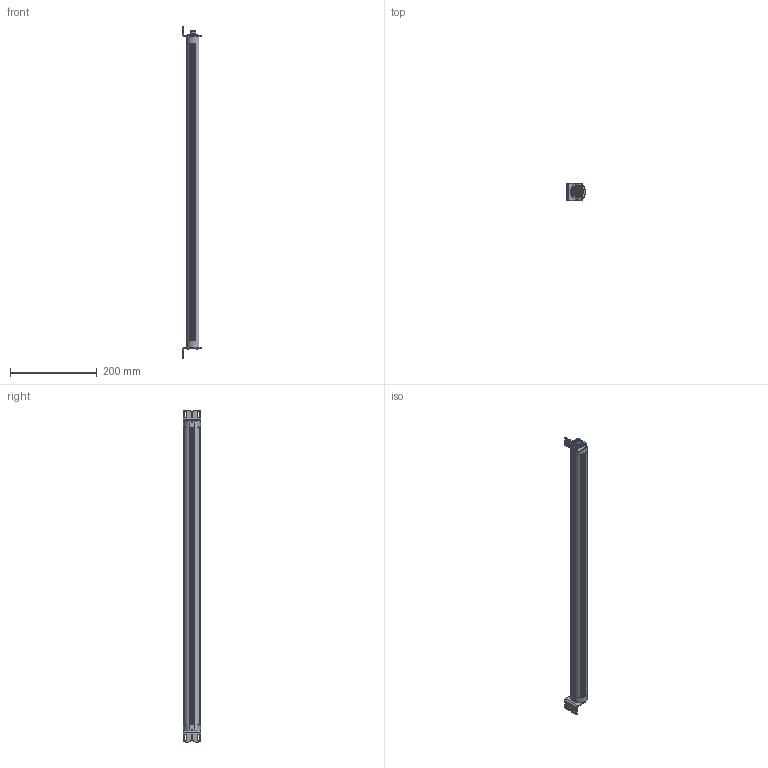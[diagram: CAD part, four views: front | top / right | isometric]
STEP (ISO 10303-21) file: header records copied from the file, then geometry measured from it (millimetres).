
FILE_DESCRIPTION(/* description */ (''),/* implementation_level */ '2;1');
FILE_NAME(/* name */ 'G:\Daten\Leuchten\07000 - LED LR40\03 - CAD\LR_40 LRO_40 715\led-aufbauleuchte-lr40-715.stp',/* time_stamp */ '2023-05-05T12:05:28+02:00',/* author */ ('gzahn'),/* organization */ (''),/* preprocessor_version */ 'ST-DEVELOPER v19',/* originating_system */ 'Autodesk Inventor 2023',/* authorisation */ '');
FILE_SCHEMA (('AUTOMOTIVE_DESIGN { 1 0 10303 214 3 1 1 }'));
Length unit declared in the file: millimetre
Products named in the file (1): led-aufbauleuchte-lr40-715
Bounding box: 42 x 40.01 x 765 mm (x, y, z)
Volume: 656334.4 mm3; surface area: 113963.7 mm2
Topology: 1 solids, 1 shells, 797 faces, 2232 edges, 1392 vertices
Faces by surface type: plane 344, cylinder 300, cone 97, bspline 30, torus 19, sphere 7
Full cylindrical faces by diameter (mm): 1 x5, 2.9 x8, 2.92 x12, 5.5 x8, 5.8 x8, 8 x6, 8.3 x1, 10.5 x1, 10.65 x1, 12 x1, 20 x2
Entity records: 29522 total; most frequent: CARTESIAN_POINT 8073, ORIENTED_EDGE 4442, DIRECTION 4389, EDGE_CURVE 2221, AXIS2_PLACEMENT_3D 1790, VERTEX_POINT 1392, CIRCLE 1004, EDGE_LOOP 855
